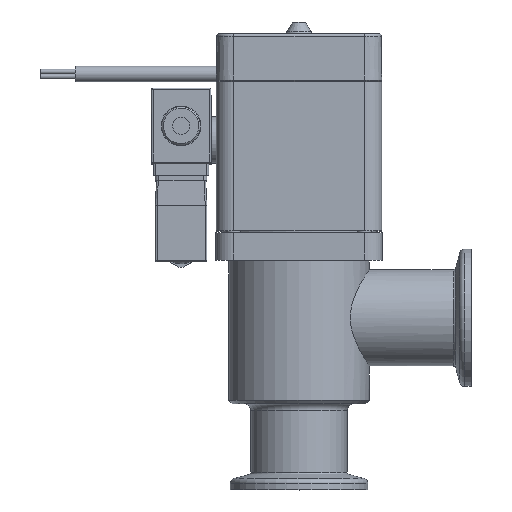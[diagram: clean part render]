
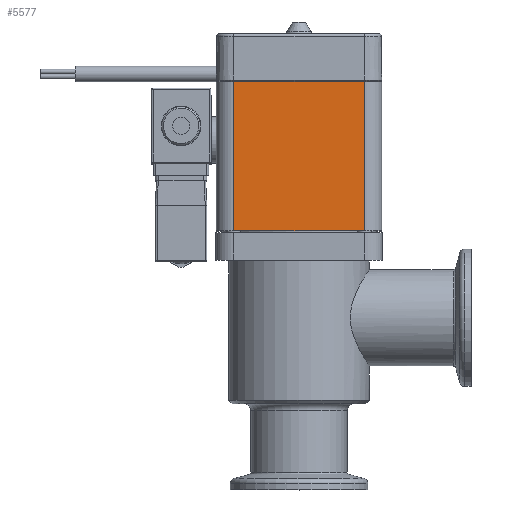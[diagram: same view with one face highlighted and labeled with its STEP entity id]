
A CAD part, top view. The second image highlights one B-rep face of the part: STEP entity #5577.
In plain terms, the highlighted planar face has unit normal (0, 0, 1) as drawn and (0, 0, -1) by its records, which use the part's own axes.
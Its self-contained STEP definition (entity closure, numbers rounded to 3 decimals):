
#2966=FACE_OUTER_BOUND('',#7066,.T.);
#3374=PLANE('',#13825);
#3903=LINE('',#18920,#4779);
#3908=LINE('',#18956,#4784);
#3909=LINE('',#18968,#4785);
#3910=LINE('',#18970,#4786);
#4779=VECTOR('',#15477,1.);
#4784=VECTOR('',#15510,1.);
#4785=VECTOR('',#15523,1.);
#4786=VECTOR('',#15526,1.);
#5577=ADVANCED_FACE('',(#2966),#3374,.F.);
#7066=EDGE_LOOP('',(#8563,#8564,#8565,#8566));
#8563=ORIENTED_EDGE('',*,*,#12049,.T.);
#8564=ORIENTED_EDGE('',*,*,#12056,.F.);
#8565=ORIENTED_EDGE('',*,*,#12031,.F.);
#8566=ORIENTED_EDGE('',*,*,#12055,.T.);
#10891=VERTEX_POINT('',#18919);
#10892=VERTEX_POINT('',#18921);
#10908=VERTEX_POINT('',#18955);
#10909=VERTEX_POINT('',#18957);
#12031=EDGE_CURVE('',#10891,#10892,#3903,.T.);
#12049=EDGE_CURVE('',#10909,#10908,#3908,.T.);
#12055=EDGE_CURVE('',#10891,#10909,#3909,.T.);
#12056=EDGE_CURVE('',#10892,#10908,#3910,.T.);
#13825=AXIS2_PLACEMENT_3D('',#18971,#15527,#15528);
#15477=DIRECTION('',(-1.,0.,0.));
#15510=DIRECTION('',(-1.,0.,0.));
#15523=DIRECTION('',(0.,-1.,0.));
#15526=DIRECTION('',(0.,-1.,0.));
#15527=DIRECTION('',(0.,0.,1.));
#15528=DIRECTION('',(1.,0.,0.));
#18919=CARTESIAN_POINT('',(19.,43.3,-24.));
#18920=CARTESIAN_POINT('',(19.,43.3,-24.));
#18921=CARTESIAN_POINT('',(-19.,43.3,-24.));
#18955=CARTESIAN_POINT('',(-19.,0.,-24.));
#18956=CARTESIAN_POINT('',(19.,0.,-24.));
#18957=CARTESIAN_POINT('',(19.,0.,-24.));
#18968=CARTESIAN_POINT('',(19.,43.3,-24.));
#18970=CARTESIAN_POINT('',(-19.,43.3,-24.));
#18971=CARTESIAN_POINT('',(19.,43.3,-24.));
